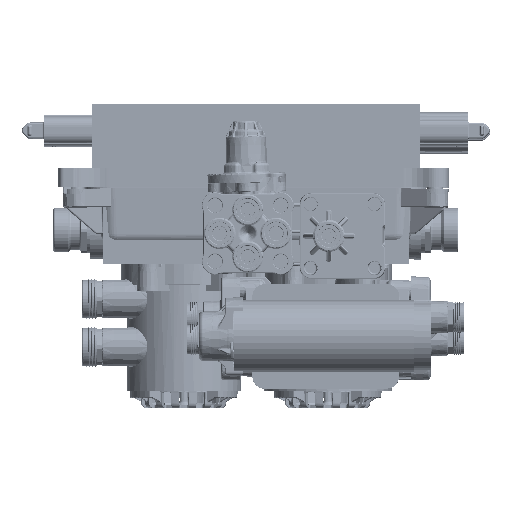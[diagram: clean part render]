
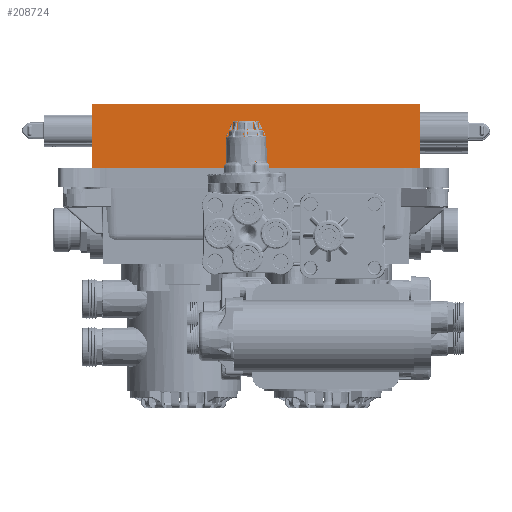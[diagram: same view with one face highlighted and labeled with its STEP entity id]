
A CAD part, top view. The second image highlights one B-rep face of the part: STEP entity #208724.
In plain terms, the highlighted planar face has unit normal (0, 0, 1).
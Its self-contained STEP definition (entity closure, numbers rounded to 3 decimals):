
#199304=DIRECTION('',(1.,0.,0.));
#199305=VECTOR('',#199304,205.12);
#199306=CARTESIAN_POINT('',(-102.62,56.07,116.225));
#199307=LINE('',#199306,#199305);
#199311=DIRECTION('',(0.,1.,0.));
#199312=VECTOR('',#199311,40.03);
#199313=CARTESIAN_POINT('',(102.5,56.07,116.225));
#199314=LINE('',#199313,#199312);
#200540=DIRECTION('',(0.,1.,0.));
#200541=VECTOR('',#200540,40.03);
#200542=CARTESIAN_POINT('',(-102.62,56.07,116.225));
#200543=LINE('',#200542,#200541);
#200547=DIRECTION('',(1.,0.,0.));
#200548=VECTOR('',#200547,205.12);
#200549=CARTESIAN_POINT('',(-102.62,96.1,116.225));
#200550=LINE('',#200549,#200548);
#206798=CARTESIAN_POINT('',(102.5,56.07,116.225));
#206800=VERTEX_POINT('',#206798);
#206804=CARTESIAN_POINT('',(-102.62,56.07,116.225));
#206805=VERTEX_POINT('',#206804);
#206806=CARTESIAN_POINT('',(102.5,96.1,116.225));
#206807=VERTEX_POINT('',#206806);
#207031=CARTESIAN_POINT('',(-102.62,96.1,116.225));
#207032=VERTEX_POINT('',#207031);
#208711=CARTESIAN_POINT('',(-102.62,56.1,116.225));
#208712=DIRECTION('',(0.,0.,1.));
#208713=DIRECTION('',(1.,0.,0.));
#208714=AXIS2_PLACEMENT_3D('',#208711,#208712,#208713);
#208715=PLANE('',#208714);
#208716=ORIENTED_EDGE('',*,*,#208421,.F.);
#208717=ORIENTED_EDGE('',*,*,#208411,.F.);
#208719=ORIENTED_EDGE('',*,*,#208718,.T.);
#208721=ORIENTED_EDGE('',*,*,#208720,.T.);
#208722=EDGE_LOOP('',(#208716,#208717,#208719,#208721));
#208723=FACE_OUTER_BOUND('',#208722,.F.);
#208411=EDGE_CURVE('',#206805,#206800,#199307,.T.);
#208421=EDGE_CURVE('',#206800,#206807,#199314,.T.);
#208718=EDGE_CURVE('',#206805,#207032,#200543,.T.);
#208720=EDGE_CURVE('',#207032,#206807,#200550,.T.);
#208724=ADVANCED_FACE('',(#208723),#208715,.T.);
